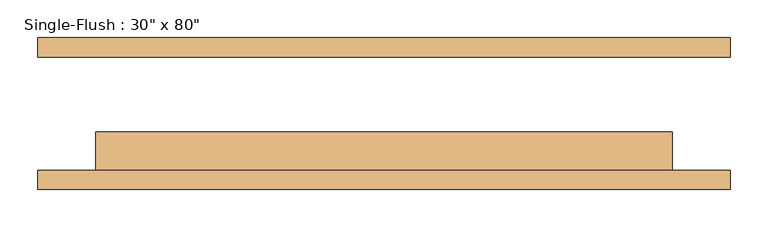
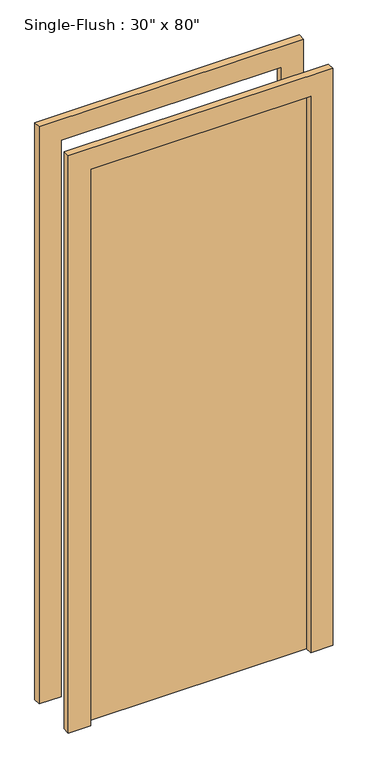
"""IFC4 building model written with IfcOpenShell, lengths in millimetres: door geometry."""

from ifc_helpers import new_model, si_unit, frame, origin, origin_with_axes, place, context, project, spatial, polyline, outline, extrude, source, transform, mapped, element, save


def door_f7163fd2(model_context):
    return source(origin(), model_context, "Body", "SweptSolid", [
        extrude(outline(polyline([(2108.2, -457.2), (0.0, -457.2), (0.0, -381.0), (2032.0, -381.0), (2032.0, 381.0), (0.0, 381.0), (0.0, 457.2), (2108.2, 457.2), (2108.2, -457.2)])), frame((0.0, -100.4, 0.0), z_axis=(0.0, 1.0, 0.0), x_axis=(0.0, 0.0, 1.0)), (0.0, 0.0, 1.0), 25.4),
        extrude(outline(polyline([(2108.2, 457.2), (2108.2, -457.2), (0.0, -457.2), (0.0, -381.0), (2032.0, -381.0), (2032.0, 381.0), (0.0, 381.0), (0.0, 457.2), (2108.2, 457.2)])), frame((0.0, 75.0, 0.0), z_axis=(0.0, 1.0, 0.0), x_axis=(0.0, 0.0, 1.0)), (0.0, 0.0, 1.0), 25.4),
        extrude(outline(polyline([(381.0, -24.2), (381.0, -75.0), (-381.0, -75.0), (-381.0, -24.2), (381.0, -24.2)])), origin_with_axes(), (0.0, 0.0, 1.0), 2032.0),
    ])


if __name__ == "__main__":
    model = new_model("IFC4")
    model_context = context("Model", 3, world=origin())
    ifc_project = project(units=[si_unit("LENGTHUNIT", "METRE", prefix="MILLI")], contexts=[model_context])
    site = spatial("IfcSite", under=ifc_project)
    building = spatial("IfcBuilding", under=site)
    placement = place(None, origin())
    door_shape = door_f7163fd2(model_context)
    element("IfcDoor", 1, ObjectType="Single-Flush : 30\" x 80\"", at=placement, inside=building, context=model_context, shape_type="MappedRepresentation", body=[
        mapped(door_shape, transform((0.0, 0.0, 0.0), x_axis=(1.0, 0.0, 0.0), y_axis=(0.0, 1.0, 0.0), z_axis=(0.0, 0.0, 1.0))),
    ])
    save(model, "model.ifc")
